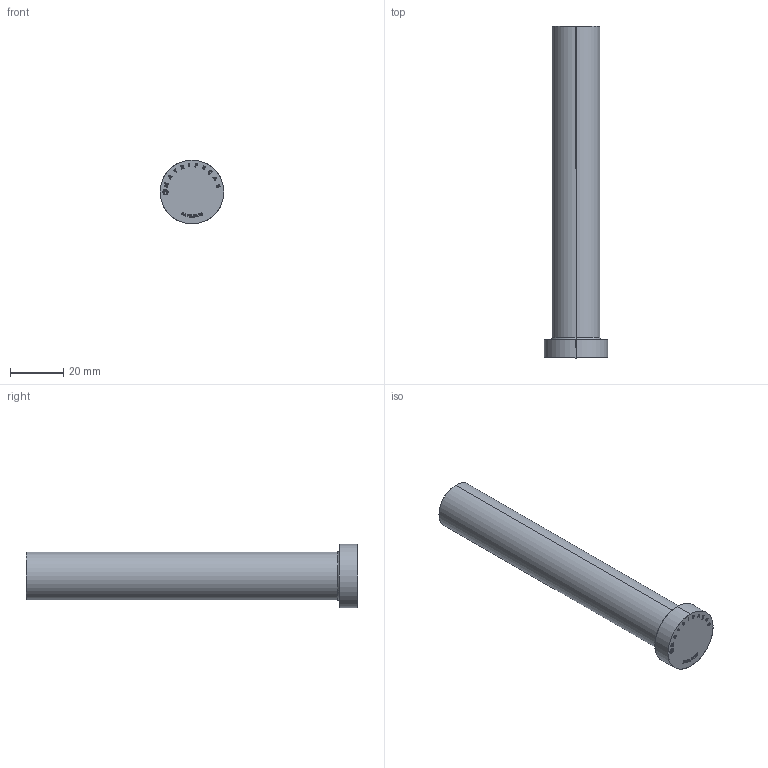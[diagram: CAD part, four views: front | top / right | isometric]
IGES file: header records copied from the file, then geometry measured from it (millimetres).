
Start section: SolidWorks IGES file using analytic representation for surfaces
Global section: file name: D:\Cleonir_particular\Matripeças\Pinos Extradores A DIN 1530\PA18,0125.IGS; native system: SolidWorks 2013; preprocessor: SolidWorks 2013; author: Cleonir; date: 130225.154800; units: millimetre
Bounding box: 24 x 125 x 24 mm (x, y, z)
Surface area: 8140.4 mm2 (no closed solid volume)
Topology: 0 solids, 0 shells, 288 faces, 3092 edges, 3092 vertices
Faces by surface type: bspline 276, revolution 12
